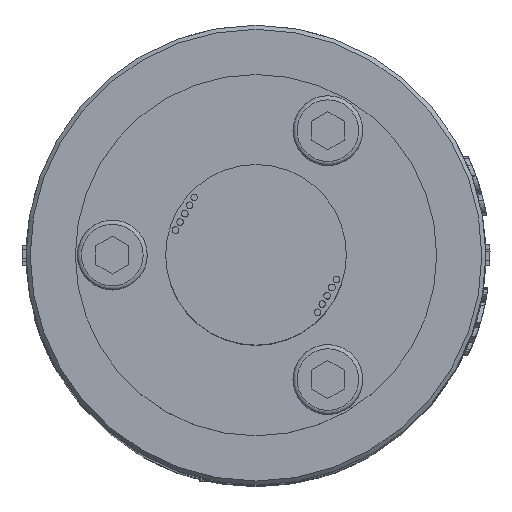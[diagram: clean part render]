
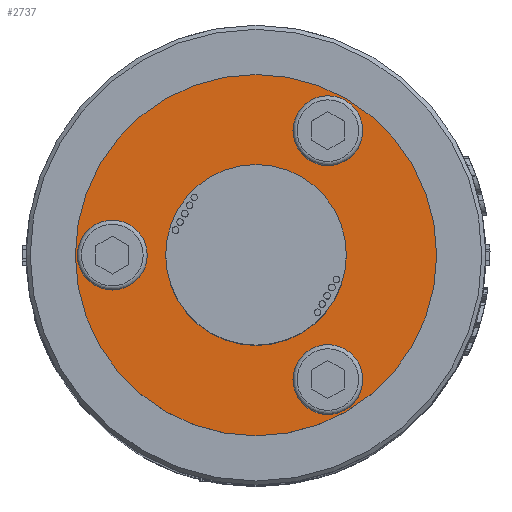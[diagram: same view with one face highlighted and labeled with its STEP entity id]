
A CAD part, top view. The second image highlights one B-rep face of the part: STEP entity #2737.
In plain terms, the highlighted planar face has unit normal (0, 0, 1).
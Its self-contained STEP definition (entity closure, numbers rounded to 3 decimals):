
#632=FACE_BOUND('',#5632,.T.);
#633=FACE_BOUND('',#5633,.T.);
#634=FACE_BOUND('',#5634,.T.);
#635=FACE_BOUND('',#5635,.T.);
#636=FACE_BOUND('',#5636,.T.);
#921=CIRCLE('',#21278,4.25);
#923=CIRCLE('',#21289,4.25);
#926=CIRCLE('',#21302,4.25);
#950=CIRCLE('',#21359,11.);
#951=CIRCLE('',#21361,22.);
#2737=ADVANCED_FACE('',(#632,#633,#634,#635,#636),#3252,.T.);
#3252=PLANE('',#21362);
#5632=EDGE_LOOP('',(#13027));
#5633=EDGE_LOOP('',(#13028));
#5634=EDGE_LOOP('',(#13029));
#5635=EDGE_LOOP('',(#13030));
#5636=EDGE_LOOP('',(#13031));
#13027=ORIENTED_EDGE('',*,*,#17870,.F.);
#13028=ORIENTED_EDGE('',*,*,#17884,.F.);
#13029=ORIENTED_EDGE('',*,*,#17905,.F.);
#13030=ORIENTED_EDGE('',*,*,#17948,.T.);
#13031=ORIENTED_EDGE('',*,*,#17947,.F.);
#15010=VERTEX_POINT('',#41710);
#15018=VERTEX_POINT('',#41741);
#15033=VERTEX_POINT('',#41787);
#15069=VERTEX_POINT('',#41898);
#15070=VERTEX_POINT('',#41901);
#17870=EDGE_CURVE('',#15010,#15010,#921,.T.);
#17884=EDGE_CURVE('',#15018,#15018,#923,.T.);
#17905=EDGE_CURVE('',#15033,#15033,#926,.T.);
#17947=EDGE_CURVE('',#15069,#15069,#950,.T.);
#17948=EDGE_CURVE('',#15070,#15070,#951,.T.);
#21278=AXIS2_PLACEMENT_3D('',#41709,#24218,#24219);
#21289=AXIS2_PLACEMENT_3D('',#41740,#24252,#24253);
#21302=AXIS2_PLACEMENT_3D('',#41786,#24296,#24297);
#21359=AXIS2_PLACEMENT_3D('',#41897,#24428,#24429);
#21361=AXIS2_PLACEMENT_3D('',#41900,#24432,#24433);
#21362=AXIS2_PLACEMENT_3D('',#41902,#24434,#24435);
#24218=DIRECTION('',(0.,0.,1.));
#24219=DIRECTION('',(-0.866,0.5,0.));
#24252=DIRECTION('',(0.,0.,1.));
#24253=DIRECTION('',(-0.866,0.5,0.));
#24296=DIRECTION('',(0.,0.,1.));
#24297=DIRECTION('',(-0.866,0.5,0.));
#24428=DIRECTION('',(0.,0.,1.));
#24429=DIRECTION('',(0.866,-0.5,0.));
#24432=DIRECTION('',(0.,0.,1.));
#24433=DIRECTION('',(0.866,-0.5,0.));
#24434=DIRECTION('',(0.,0.,1.));
#24435=DIRECTION('',(-0.866,0.5,0.));
#41709=CARTESIAN_POINT('',(8.75,-15.155,136.5));
#41710=CARTESIAN_POINT('',(5.069,-13.03,136.5));
#41740=CARTESIAN_POINT('',(8.75,15.155,136.5));
#41741=CARTESIAN_POINT('',(5.069,17.28,136.5));
#41786=CARTESIAN_POINT('',(-17.5,0.,136.5));
#41787=CARTESIAN_POINT('',(-21.181,2.125,136.5));
#41897=CARTESIAN_POINT('',(0.,0.,
136.5));
#41898=CARTESIAN_POINT('',(9.526,-5.5,136.5));
#41900=CARTESIAN_POINT('',(0.,0.,
136.5));
#41901=CARTESIAN_POINT('',(19.053,-11.,136.5));
#41902=CARTESIAN_POINT('',(0.,0.,
136.5));
